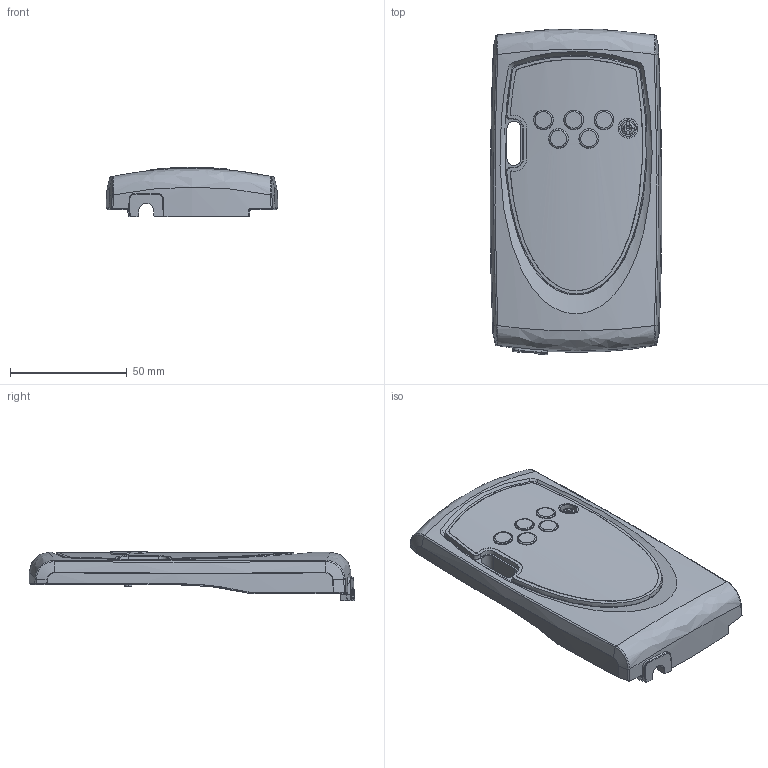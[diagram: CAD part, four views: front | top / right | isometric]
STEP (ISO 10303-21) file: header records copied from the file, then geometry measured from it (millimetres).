
FILE_DESCRIPTION((''),'2;1');
FILE_NAME('PK-SEQ-SK-A-FRONT-COVER','2006-12-19T',('summne01'),(''),'PRO/ENGINEER BY PARAMETRIC TECHNOLOGY CORPORATION, 2006320','PRO/ENGINEER BY PARAMETRIC TECHNOLOGY CORPORATION, 2006320','');
FILE_SCHEMA(('CONFIG_CONTROL_DESIGN'));
Length unit declared in the file: millimetre
Products named in the file (1): PK-SEQ-SK-A-FRONT-COVER
Bounding box: 73.39 x 139.47 x 21.09 mm (x, y, z)
Surface area: 36510.4 mm2 (no closed solid volume)
Topology: 0 solids, 7 shells, 233 faces, 620 edges, 390 vertices
Faces by surface type: bspline 92, plane 51, cylinder 45, cone 40, torus 3, sphere 2
Entity records: 13043 total; most frequent: CARTESIAN_POINT 8248, ORIENTED_EDGE 1141, DIRECTION 627, EDGE_CURVE 618, VERTEX_POINT 390, B_SPLINE_CURVE_WITH_KNOTS 358, EDGE_LOOP 252, FACE_OUTER_BOUND 233
